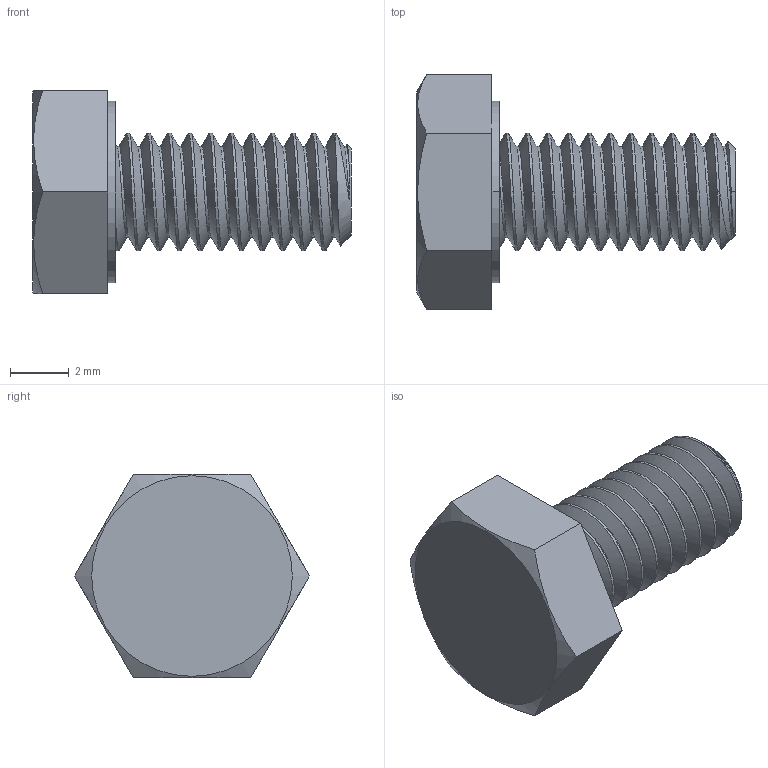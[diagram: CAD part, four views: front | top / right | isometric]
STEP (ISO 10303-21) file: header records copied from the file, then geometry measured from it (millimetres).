
FILE_DESCRIPTION (( 'STEP AP203' ), '1' );
FILE_NAME ('2813-0004-0008.STEP', '2023-03-21T14:27:45', ( '' ), ( '' ), 'SwSTEP 2.0', 'SolidWorks 2016', '' );
FILE_SCHEMA (( 'CONFIG_CONTROL_DESIGN' ));
Length unit declared in the file: millimetre
Products named in the file (1): 2813-0004-0008
Bounding box: 10.8 x 7.97 x 6.9 mm (x, y, z)
Volume: 191 mm3; surface area: 297.2 mm2
Topology: 1 solids, 1 shells, 42 faces, 113 edges, 75 vertices
Faces by surface type: cylinder 25, plane 10, cone 4, bspline 3
Entity records: 2906 total; most frequent: CARTESIAN_POINT 1946, ORIENTED_EDGE 226, DIRECTION 140, EDGE_CURVE 113, VERTEX_POINT 75, AXIS2_PLACEMENT_3D 50, EDGE_LOOP 44, ADVANCED_FACE 42
